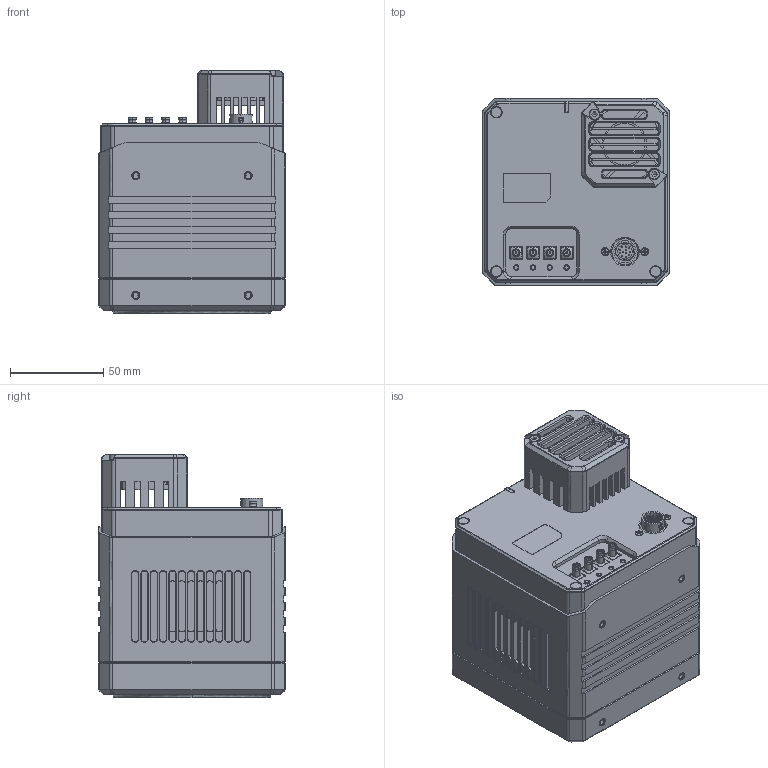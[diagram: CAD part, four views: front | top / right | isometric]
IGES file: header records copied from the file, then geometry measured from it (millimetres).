
Start section:  PTC IGES file: MV-CH6040-10XM-M72.igs
Global section: file name: MV-CH6040-10XM-M72.igs; native system: Creo Parametric by PTC Inc.; preprocessor: 2017260; author: wangyijun6; organization: Unknown; date: 20210702.194346; units: millimetre
Bounding box: 100 x 100.41 x 130.27 mm (x, y, z)
Volume: 937630 mm3; surface area: 186862 mm2
Topology: 15 solids, 42 shells, 3055 faces, 8414 edges, 5607 vertices
Faces by surface type: bspline 1549, revolution 1490, extrusion 16
